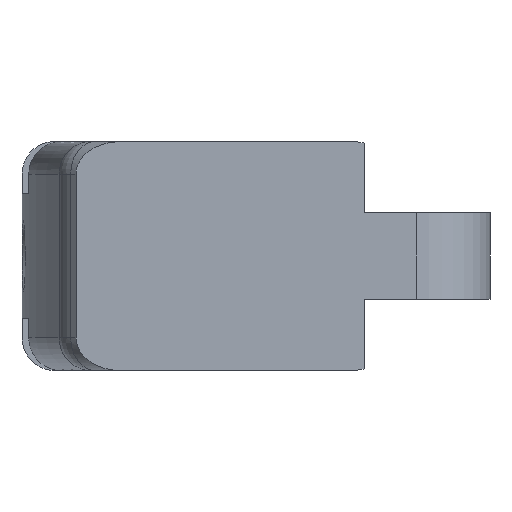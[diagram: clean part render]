
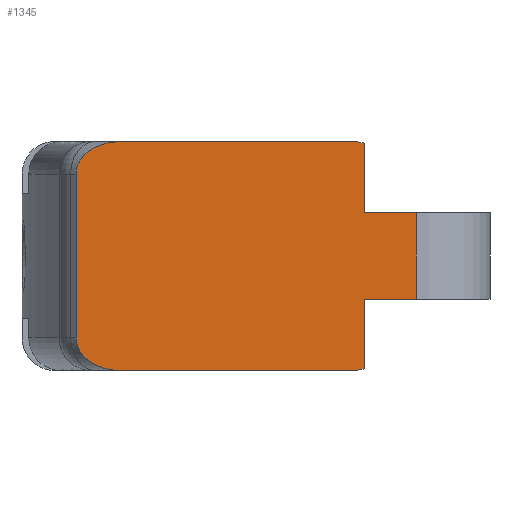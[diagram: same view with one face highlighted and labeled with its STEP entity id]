
A CAD part, front view. The second image highlights one B-rep face of the part: STEP entity #1345.
In plain terms, the highlighted planar face has unit normal (0, -1, 0).
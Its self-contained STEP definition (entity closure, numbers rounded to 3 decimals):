
#52 = CARTESIAN_POINT ( 'NONE',  ( 0., 0., 0. ) ) ;
#54 = CARTESIAN_POINT ( 'NONE',  ( 21.5, 0., 9.65 ) ) ;
#231 = B_SPLINE_CURVE_WITH_KNOTS ( 'NONE', 3,
 ( #7374, #3311, #7404, #3922 ),
 .UNSPECIFIED., .F., .F.,
 ( 4, 4 ),
 ( 0., 0.001 ),
 .UNSPECIFIED. ) ;
#327 =( BOUNDED_CURVE ( )  B_SPLINE_CURVE ( 3, ( #3329, #6790, #3918, #382 ),
 .UNSPECIFIED., .F., .T. ) 
 B_SPLINE_CURVE_WITH_KNOTS ( ( 4, 4 ),
 ( 4.712, 6.283 ),
 .UNSPECIFIED. ) 
 CURVE ( )  GEOMETRIC_REPRESENTATION_ITEM ( )  RATIONAL_B_SPLINE_CURVE ( ( 1., 0.805, 0.805, 1. ) ) 
 REPRESENTATION_ITEM ( '' )  );
#329 = VERTEX_POINT ( 'NONE', #1105 ) ;
#382 = CARTESIAN_POINT ( 'NONE',  ( 0.673, 0., 12. ) ) ;
#455 = EDGE_CURVE ( 'NONE', #5418, #1620, #4094, .T. ) ;
#622 = ORIENTED_EDGE ( 'NONE', *, *, #1449, .T. ) ;
#734 = ORIENTED_EDGE ( 'NONE', *, *, #7025, .F. ) ;
#819 = CARTESIAN_POINT ( 'NONE',  ( 21.5, 0., 4.35 ) ) ;
#839 = VECTOR ( 'NONE', #3622, 1000. ) ;
#856 = CARTESIAN_POINT ( 'NONE',  ( 18.3, 0., 13.906 ) ) ;
#1025 = CARTESIAN_POINT ( 'NONE',  ( 0.673, 0., 12. ) ) ;
#1105 = CARTESIAN_POINT ( 'NONE',  ( 17.57, 0., 0. ) ) ;
#1119 = EDGE_CURVE ( 'NONE', #5575, #3119, #327, .T. ) ;
#1331 = VECTOR ( 'NONE', #5399, 1000. ) ;
#1335 = DIRECTION ( 'NONE',  ( 1., 0., 0. ) ) ;
#1345 = ADVANCED_FACE ( 'NONE', ( #4453 ), #6419, .F. ) ;
#1363 = CARTESIAN_POINT ( 'NONE',  ( 18.3, 0., 0.094 ) ) ;
#1449 = EDGE_CURVE ( 'NONE', #4253, #329, #2893, .T. ) ;
#1580 = DIRECTION ( 'NONE',  ( 0., 0., 1. ) ) ;
#1620 = VERTEX_POINT ( 'NONE', #1363 ) ;
#1731 = ORIENTED_EDGE ( 'NONE', *, *, #455, .F. ) ;
#1899 = LINE ( 'NONE', #5122, #5022 ) ;
#1942 = CARTESIAN_POINT ( 'NONE',  ( 0.673, 0., 2. ) ) ;
#2282 = ORIENTED_EDGE ( 'NONE', *, *, #5118, .T. ) ;
#2383 = ORIENTED_EDGE ( 'NONE', *, *, #1119, .T. ) ;
#2421 = AXIS2_PLACEMENT_3D ( 'NONE', #2924, #6988, #3514 ) ;
#2634 = DIRECTION ( 'NONE',  ( 0., 0., -1. ) ) ;
#2736 = ORIENTED_EDGE ( 'NONE', *, *, #4889, .F. ) ;
#2817 = VERTEX_POINT ( 'NONE', #1942 ) ;
#2818 = CARTESIAN_POINT ( 'NONE',  ( 3.365, 0., 0. ) ) ;
#2893 = LINE ( 'NONE', #52, #5641 ) ;
#2924 = CARTESIAN_POINT ( 'NONE',  ( 0., 0., 14. ) ) ;
#3100 = ORIENTED_EDGE ( 'NONE', *, *, #4634, .T. ) ;
#3119 = VERTEX_POINT ( 'NONE', #1025 ) ;
#3145 = CARTESIAN_POINT ( 'NONE',  ( 0., 0., 9.65 ) ) ;
#3311 = CARTESIAN_POINT ( 'NONE',  ( 17.818, 0., 0. ) ) ;
#3329 = CARTESIAN_POINT ( 'NONE',  ( 3.365, 0., 14. ) ) ;
#3368 = LINE ( 'NONE', #3687, #6286 ) ;
#3514 = DIRECTION ( 'NONE',  ( 0., 0., 1. ) ) ;
#3622 = DIRECTION ( 'NONE',  ( 1., 0., 0. ) ) ;
#3687 = CARTESIAN_POINT ( 'NONE',  ( 18.3, 0., 14. ) ) ;
#3738 = ORIENTED_EDGE ( 'NONE', *, *, #6551, .T. ) ;
#3765 = CARTESIAN_POINT ( 'NONE',  ( 17.57, 0., 14. ) ) ;
#3918 = CARTESIAN_POINT ( 'NONE',  ( 0.673, 0., 13.172 ) ) ;
#3922 = CARTESIAN_POINT ( 'NONE',  ( 18.3, 0., 0.094 ) ) ;
#4094 = LINE ( 'NONE', #4216, #1331 ) ;
#4107 = VECTOR ( 'NONE', #1335, 1000. ) ;
#4216 = CARTESIAN_POINT ( 'NONE',  ( 18.3, 0., 14. ) ) ;
#4253 = VERTEX_POINT ( 'NONE', #4820 ) ;
#4376 = EDGE_CURVE ( 'NONE', #7309, #5418, #4578, .T. ) ;
#4453 = FACE_OUTER_BOUND ( 'NONE', #5747, .T. ) ;
#4571 = CARTESIAN_POINT ( 'NONE',  ( 0.673, 0., 0.828 ) ) ;
#4578 = LINE ( 'NONE', #5215, #6121 ) ;
#4634 = EDGE_CURVE ( 'NONE', #7309, #7008, #1899, .T. ) ;
#4820 = CARTESIAN_POINT ( 'NONE',  ( 3.365, 0., 0. ) ) ;
#4862 = CARTESIAN_POINT ( 'NONE',  ( 18.061, 0., 13.966 ) ) ;
#4889 = EDGE_CURVE ( 'NONE', #5019, #7008, #7368, .T. ) ;
#5019 = VERTEX_POINT ( 'NONE', #5274 ) ;
#5022 = VECTOR ( 'NONE', #1580, 1000. ) ;
#5107 = ORIENTED_EDGE ( 'NONE', *, *, #7415, .T. ) ;
#5118 = EDGE_CURVE ( 'NONE', #5019, #5493, #3368, .T. ) ;
#5122 = CARTESIAN_POINT ( 'NONE',  ( 21.5, 0., 14. ) ) ;
#5154 = CARTESIAN_POINT ( 'NONE',  ( 0.673, 0., 2. ) ) ;
#5215 = CARTESIAN_POINT ( 'NONE',  ( 0., 0., 4.35 ) ) ;
#5274 = CARTESIAN_POINT ( 'NONE',  ( 18.3, 0., 9.65 ) ) ;
#5368 = CARTESIAN_POINT ( 'NONE',  ( 0., 0., 14. ) ) ;
#5378 = EDGE_CURVE ( 'NONE', #5493, #6409, #6812, .T. ) ;
#5399 = DIRECTION ( 'NONE',  ( 0., 0., -1. ) ) ;
#5418 = VERTEX_POINT ( 'NONE', #5535 ) ;
#5493 = VERTEX_POINT ( 'NONE', #856 ) ;
#5535 = CARTESIAN_POINT ( 'NONE',  ( 18.3, 0., 4.35 ) ) ;
#5554 = LINE ( 'NONE', #5368, #839 ) ;
#5569 = CARTESIAN_POINT ( 'NONE',  ( 0.673, 0., 14. ) ) ;
#5575 = VERTEX_POINT ( 'NONE', #6860 ) ;
#5641 = VECTOR ( 'NONE', #7073, 1000. ) ;
#5747 = EDGE_LOOP ( 'NONE', ( #5828, #3100, #2736, #2282, #7209, #734, #2383, #3738, #6416, #622, #5107, #1731 ) ) ;
#5828 = ORIENTED_EDGE ( 'NONE', *, *, #4376, .F. ) ;
#6121 = VECTOR ( 'NONE', #6949, 1000. ) ;
#6286 = VECTOR ( 'NONE', #7145, 1000. ) ;
#6314 = CARTESIAN_POINT ( 'NONE',  ( 1.788, 0., 0. ) ) ;
#6409 = VERTEX_POINT ( 'NONE', #7230 ) ;
#6416 = ORIENTED_EDGE ( 'NONE', *, *, #6783, .T. ) ;
#6419 = PLANE ( 'NONE',  #2421 ) ;
#6551 = EDGE_CURVE ( 'NONE', #3119, #2817, #7542, .T. ) ;
#6663 = CARTESIAN_POINT ( 'NONE',  ( 18.3, 0., 13.906 ) ) ;
#6783 = EDGE_CURVE ( 'NONE', #2817, #4253, #7310, .T. ) ;
#6790 = CARTESIAN_POINT ( 'NONE',  ( 1.788, 0., 14. ) ) ;
#6812 = B_SPLINE_CURVE_WITH_KNOTS ( 'NONE', 3,
 ( #6663, #4862, #7245, #3765 ),
 .UNSPECIFIED., .F., .F.,
 ( 4, 4 ),
 ( 0., 0.001 ),
 .UNSPECIFIED. ) ;
#6860 = CARTESIAN_POINT ( 'NONE',  ( 3.365, 0., 14. ) ) ;
#6949 = DIRECTION ( 'NONE',  ( -1., 0., 0. ) ) ;
#6988 = DIRECTION ( 'NONE',  ( 0., 1., 0. ) ) ;
#7008 = VERTEX_POINT ( 'NONE', #54 ) ;
#7025 = EDGE_CURVE ( 'NONE', #5575, #6409, #5554, .T. ) ;
#7073 = DIRECTION ( 'NONE',  ( 1., 0., 0. ) ) ;
#7145 = DIRECTION ( 'NONE',  ( 0., 0., 1. ) ) ;
#7209 = ORIENTED_EDGE ( 'NONE', *, *, #5378, .T. ) ;
#7230 = CARTESIAN_POINT ( 'NONE',  ( 17.57, 0., 14. ) ) ;
#7245 = CARTESIAN_POINT ( 'NONE',  ( 17.818, 0., 14. ) ) ;
#7309 = VERTEX_POINT ( 'NONE', #819 ) ;
#7310 =( BOUNDED_CURVE ( )  B_SPLINE_CURVE ( 3, ( #5154, #4571, #6314, #2818 ),
 .UNSPECIFIED., .F., .F. ) 
 B_SPLINE_CURVE_WITH_KNOTS ( ( 4, 4 ),
 ( 0., 1.571 ),
 .UNSPECIFIED. ) 
 CURVE ( )  GEOMETRIC_REPRESENTATION_ITEM ( )  RATIONAL_B_SPLINE_CURVE ( ( 1., 0.805, 0.805, 1. ) ) 
 REPRESENTATION_ITEM ( '' )  );
#7354 = VECTOR ( 'NONE', #2634, 1000. ) ;
#7368 = LINE ( 'NONE', #3145, #4107 ) ;
#7374 = CARTESIAN_POINT ( 'NONE',  ( 17.57, 0., 0. ) ) ;
#7404 = CARTESIAN_POINT ( 'NONE',  ( 18.061, 0., 0.034 ) ) ;
#7415 = EDGE_CURVE ( 'NONE', #329, #1620, #231, .T. ) ;
#7542 = LINE ( 'NONE', #5569, #7354 ) ;
